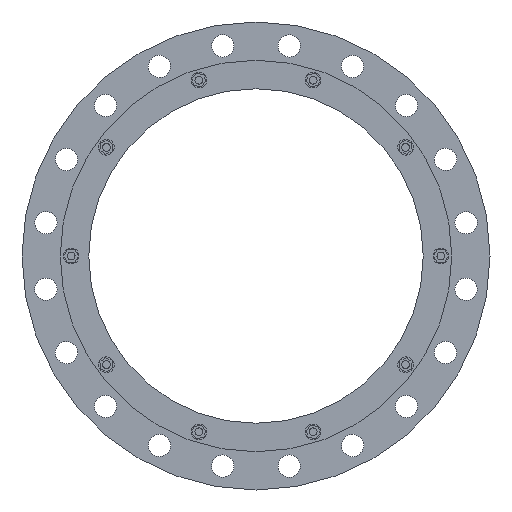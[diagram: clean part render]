
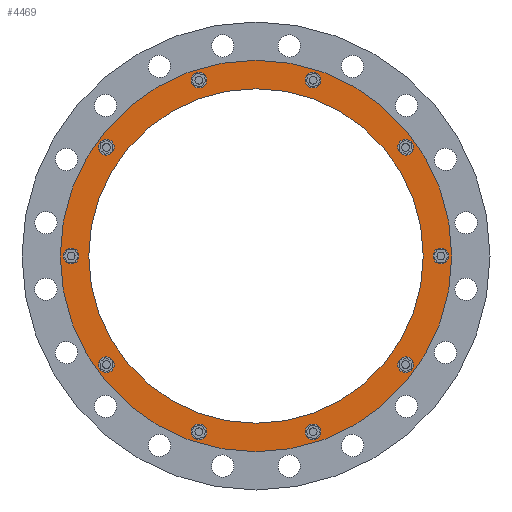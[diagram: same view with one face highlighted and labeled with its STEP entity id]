
A CAD part, front view. The second image highlights one B-rep face of the part: STEP entity #4469.
In plain terms, the highlighted planar face has unit normal (0, -1, 0).
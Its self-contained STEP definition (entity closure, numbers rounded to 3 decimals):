
#1100=CARTESIAN_POINT('',(0.,-94.452,0.));
#1101=DIRECTION('',(0.,-1.,0.));
#1102=DIRECTION('',(1.,0.,0.));
#1103=AXIS2_PLACEMENT_3D('',#1100,#1101,#1102);
#1105=CARTESIAN_POINT('',(0.,-94.452,0.));
#1106=DIRECTION('',(0.,1.,0.));
#1107=DIRECTION('',(1.,0.,0.));
#1108=AXIS2_PLACEMENT_3D('',#1105,#1106,#1107);
#1110=CARTESIAN_POINT('',(282.5,-94.452,0.));
#1111=DIRECTION('',(0.,-1.,0.));
#1112=DIRECTION('',(0.,0.,-1.));
#1113=AXIS2_PLACEMENT_3D('',#1110,#1111,#1112);
#1115=CARTESIAN_POINT('',(282.5,-94.452,0.));
#1116=DIRECTION('',(0.,-1.,0.));
#1117=DIRECTION('',(0.,0.,1.));
#1118=AXIS2_PLACEMENT_3D('',#1115,#1116,#1117);
#1120=CARTESIAN_POINT('',(228.547,-94.452,166.049));
#1121=DIRECTION('',(0.,-1.,0.));
#1122=DIRECTION('',(0.588,0.,-0.809));
#1123=AXIS2_PLACEMENT_3D('',#1120,#1121,#1122);
#1125=CARTESIAN_POINT('',(228.547,-94.452,166.049));
#1126=DIRECTION('',(0.,-1.,0.));
#1127=DIRECTION('',(-0.588,0.,0.809));
#1128=AXIS2_PLACEMENT_3D('',#1125,#1126,#1127);
#1130=CARTESIAN_POINT('',(87.297,-94.452,268.673));
#1131=DIRECTION('',(0.,-1.,0.));
#1132=DIRECTION('',(0.951,0.,-0.309));
#1133=AXIS2_PLACEMENT_3D('',#1130,#1131,#1132);
#1135=CARTESIAN_POINT('',(87.297,-94.452,268.673));
#1136=DIRECTION('',(0.,-1.,0.));
#1137=DIRECTION('',(-0.951,0.,0.309));
#1138=AXIS2_PLACEMENT_3D('',#1135,#1136,#1137);
#1140=CARTESIAN_POINT('',(-87.297,-94.452,268.673));
#1141=DIRECTION('',(0.,-1.,0.));
#1142=DIRECTION('',(0.951,0.,0.309));
#1143=AXIS2_PLACEMENT_3D('',#1140,#1141,#1142);
#1145=CARTESIAN_POINT('',(-87.297,-94.452,268.673));
#1146=DIRECTION('',(0.,-1.,0.));
#1147=DIRECTION('',(-0.951,0.,-0.309));
#1148=AXIS2_PLACEMENT_3D('',#1145,#1146,#1147);
#1150=CARTESIAN_POINT('',(-228.547,-94.452,166.049));
#1151=DIRECTION('',(0.,-1.,0.));
#1152=DIRECTION('',(0.588,0.,0.809));
#1153=AXIS2_PLACEMENT_3D('',#1150,#1151,#1152);
#1155=CARTESIAN_POINT('',(-228.547,-94.452,166.049));
#1156=DIRECTION('',(0.,-1.,0.));
#1157=DIRECTION('',(-0.588,0.,-0.809));
#1158=AXIS2_PLACEMENT_3D('',#1155,#1156,#1157);
#1160=CARTESIAN_POINT('',(-282.5,-94.452,0.));
#1161=DIRECTION('',(0.,-1.,0.));
#1162=DIRECTION('',(0.,0.,1.));
#1163=AXIS2_PLACEMENT_3D('',#1160,#1161,#1162);
#1165=CARTESIAN_POINT('',(-282.5,-94.452,0.));
#1166=DIRECTION('',(0.,-1.,0.));
#1167=DIRECTION('',(0.,0.,-1.));
#1168=AXIS2_PLACEMENT_3D('',#1165,#1166,#1167);
#1170=CARTESIAN_POINT('',(-228.547,-94.452,-166.049));
#1171=DIRECTION('',(0.,-1.,0.));
#1172=DIRECTION('',(-0.588,0.,0.809));
#1173=AXIS2_PLACEMENT_3D('',#1170,#1171,#1172);
#1175=CARTESIAN_POINT('',(-228.547,-94.452,-166.049));
#1176=DIRECTION('',(0.,-1.,0.));
#1177=DIRECTION('',(0.588,0.,-0.809));
#1178=AXIS2_PLACEMENT_3D('',#1175,#1176,#1177);
#1180=CARTESIAN_POINT('',(-87.297,-94.452,-268.673));
#1181=DIRECTION('',(0.,-1.,0.));
#1182=DIRECTION('',(-0.951,0.,0.309));
#1183=AXIS2_PLACEMENT_3D('',#1180,#1181,#1182);
#1185=CARTESIAN_POINT('',(-87.297,-94.452,-268.673));
#1186=DIRECTION('',(0.,-1.,0.));
#1187=DIRECTION('',(0.951,0.,-0.309));
#1188=AXIS2_PLACEMENT_3D('',#1185,#1186,#1187);
#1190=CARTESIAN_POINT('',(87.297,-94.452,-268.673));
#1191=DIRECTION('',(0.,-1.,0.));
#1192=DIRECTION('',(-0.951,0.,-0.309));
#1193=AXIS2_PLACEMENT_3D('',#1190,#1191,#1192);
#1195=CARTESIAN_POINT('',(87.297,-94.452,-268.673));
#1196=DIRECTION('',(0.,-1.,0.));
#1197=DIRECTION('',(0.951,0.,0.309));
#1198=AXIS2_PLACEMENT_3D('',#1195,#1196,#1197);
#1200=CARTESIAN_POINT('',(228.547,-94.452,-166.049));
#1201=DIRECTION('',(0.,-1.,0.));
#1202=DIRECTION('',(-0.588,0.,-0.809));
#1203=AXIS2_PLACEMENT_3D('',#1200,#1201,#1202);
#1205=CARTESIAN_POINT('',(228.547,-94.452,-166.049));
#1206=DIRECTION('',(0.,-1.,0.));
#1207=DIRECTION('',(0.588,0.,0.809));
#1208=AXIS2_PLACEMENT_3D('',#1205,#1206,#1207);
#1210=CARTESIAN_POINT('',(0.,-94.452,0.));
#1211=DIRECTION('',(0.,1.,0.));
#1212=DIRECTION('',(1.,0.,0.));
#1213=AXIS2_PLACEMENT_3D('',#1210,#1211,#1212);
#1223=CARTESIAN_POINT('',(0.,-94.452,0.));
#1224=DIRECTION('',(0.,-1.,0.));
#1225=DIRECTION('',(1.,0.,0.));
#1226=AXIS2_PLACEMENT_3D('',#1223,#1224,#1225);
#2967=CARTESIAN_POINT('',(299.1,-94.452,0.));
#2969=VERTEX_POINT('',#2967);
#2970=CARTESIAN_POINT('',(255.5,-94.452,0.));
#2972=VERTEX_POINT('',#2970);
#2979=CARTESIAN_POINT('',(-299.1,-94.452,0.));
#2981=VERTEX_POINT('',#2979);
#2982=CARTESIAN_POINT('',(-255.5,-94.452,0.));
#2984=VERTEX_POINT('',#2982);
#3021=CARTESIAN_POINT('',(282.5,-94.452,-12.));
#3022=CARTESIAN_POINT('',(282.5,-94.452,12.));
#3023=VERTEX_POINT('',#3021);
#3024=VERTEX_POINT('',#3022);
#3070=CARTESIAN_POINT('',(235.601,-94.452,156.341));
#3071=VERTEX_POINT('',#3070);
#3072=CARTESIAN_POINT('',(221.494,-94.452,175.758));
#3073=VERTEX_POINT('',#3072);
#3114=CARTESIAN_POINT('',(98.71,-94.452,264.965));
#3115=VERTEX_POINT('',#3114);
#3116=CARTESIAN_POINT('',(75.885,-94.452,272.382));
#3117=VERTEX_POINT('',#3116);
#3158=CARTESIAN_POINT('',(-75.885,-94.452,272.382));
#3159=VERTEX_POINT('',#3158);
#3160=CARTESIAN_POINT('',(-98.71,-94.452,264.965));
#3161=VERTEX_POINT('',#3160);
#3202=CARTESIAN_POINT('',(-221.494,-94.452,175.758));
#3203=VERTEX_POINT('',#3202);
#3204=CARTESIAN_POINT('',(-235.601,-94.452,156.341));
#3205=VERTEX_POINT('',#3204);
#3246=CARTESIAN_POINT('',(-282.5,-94.452,12.));
#3247=VERTEX_POINT('',#3246);
#3248=CARTESIAN_POINT('',(-282.5,-94.452,-12.));
#3249=VERTEX_POINT('',#3248);
#3290=CARTESIAN_POINT('',(-235.601,-94.452,-156.341));
#3291=VERTEX_POINT('',#3290);
#3292=CARTESIAN_POINT('',(-221.494,-94.452,-175.758));
#3293=VERTEX_POINT('',#3292);
#3334=CARTESIAN_POINT('',(-98.71,-94.452,-264.965));
#3335=VERTEX_POINT('',#3334);
#3336=CARTESIAN_POINT('',(-75.885,-94.452,-272.382));
#3337=VERTEX_POINT('',#3336);
#3549=CARTESIAN_POINT('',(75.885,-94.452,-272.382));
#3550=VERTEX_POINT('',#3549);
#3551=CARTESIAN_POINT('',(98.71,-94.452,-264.965));
#3552=VERTEX_POINT('',#3551);
#3593=CARTESIAN_POINT('',(221.494,-94.452,-175.758));
#3594=VERTEX_POINT('',#3593);
#3595=CARTESIAN_POINT('',(235.601,-94.452,-156.341));
#3596=VERTEX_POINT('',#3595);
#4394=CARTESIAN_POINT('',(0.,-94.452,0.));
#4395=DIRECTION('',(0.,1.,0.));
#4396=DIRECTION('',(-1.,0.,0.));
#4397=AXIS2_PLACEMENT_3D('',#4394,#4395,#4396);
#4398=PLANE('',#4397);
#4400=ORIENTED_EDGE('',*,*,#4399,.F.);
#4402=ORIENTED_EDGE('',*,*,#4401,.T.);
#4403=EDGE_LOOP('',(#4400,#4402));
#4404=FACE_OUTER_BOUND('',#4403,.F.);
#4406=ORIENTED_EDGE('',*,*,#4405,.F.);
#4408=ORIENTED_EDGE('',*,*,#4407,.T.);
#4409=EDGE_LOOP('',(#4406,#4408));
#4410=FACE_BOUND('',#4409,.F.);
#4412=ORIENTED_EDGE('',*,*,#4411,.T.);
#4414=ORIENTED_EDGE('',*,*,#4413,.T.);
#4415=EDGE_LOOP('',(#4412,#4414));
#4416=FACE_BOUND('',#4415,.F.);
#4418=ORIENTED_EDGE('',*,*,#4417,.T.);
#4420=ORIENTED_EDGE('',*,*,#4419,.T.);
#4421=EDGE_LOOP('',(#4418,#4420));
#4422=FACE_BOUND('',#4421,.F.);
#4424=ORIENTED_EDGE('',*,*,#4423,.T.);
#4426=ORIENTED_EDGE('',*,*,#4425,.T.);
#4427=EDGE_LOOP('',(#4424,#4426));
#4428=FACE_BOUND('',#4427,.F.);
#4430=ORIENTED_EDGE('',*,*,#4429,.T.);
#4432=ORIENTED_EDGE('',*,*,#4431,.T.);
#4433=EDGE_LOOP('',(#4430,#4432));
#4434=FACE_BOUND('',#4433,.F.);
#4436=ORIENTED_EDGE('',*,*,#4435,.T.);
#4438=ORIENTED_EDGE('',*,*,#4437,.T.);
#4439=EDGE_LOOP('',(#4436,#4438));
#4440=FACE_BOUND('',#4439,.F.);
#4442=ORIENTED_EDGE('',*,*,#4441,.T.);
#4444=ORIENTED_EDGE('',*,*,#4443,.T.);
#4445=EDGE_LOOP('',(#4442,#4444));
#4446=FACE_BOUND('',#4445,.F.);
#4448=ORIENTED_EDGE('',*,*,#4447,.T.);
#4450=ORIENTED_EDGE('',*,*,#4449,.T.);
#4451=EDGE_LOOP('',(#4448,#4450));
#4452=FACE_BOUND('',#4451,.F.);
#4454=ORIENTED_EDGE('',*,*,#4453,.T.);
#4456=ORIENTED_EDGE('',*,*,#4455,.T.);
#4457=EDGE_LOOP('',(#4454,#4456));
#4458=FACE_BOUND('',#4457,.F.);
#4459=ORIENTED_EDGE('',*,*,#4376,.T.);
#4460=ORIENTED_EDGE('',*,*,#4387,.T.);
#4461=EDGE_LOOP('',(#4459,#4460));
#4462=FACE_BOUND('',#4461,.F.);
#4464=ORIENTED_EDGE('',*,*,#4463,.T.);
#4466=ORIENTED_EDGE('',*,*,#4465,.T.);
#4467=EDGE_LOOP('',(#4464,#4466));
#4468=FACE_BOUND('',#4467,.F.);
#4469=ADVANCED_FACE('',(#4404,#4410,#4416,#4422,#4428,#4434,#4440,#4446,#4452,
#4458,#4462,#4468),#4398,.F.);
#1104=CIRCLE('',#1103,299.1);
#1109=CIRCLE('',#1108,299.1);
#1114=CIRCLE('',#1113,12.);
#1119=CIRCLE('',#1118,12.);
#1124=CIRCLE('',#1123,12.);
#1129=CIRCLE('',#1128,12.);
#1134=CIRCLE('',#1133,12.);
#1139=CIRCLE('',#1138,12.);
#1144=CIRCLE('',#1143,12.);
#1149=CIRCLE('',#1148,12.);
#1154=CIRCLE('',#1153,12.);
#1159=CIRCLE('',#1158,12.);
#1164=CIRCLE('',#1163,12.);
#1169=CIRCLE('',#1168,12.);
#1174=CIRCLE('',#1173,12.);
#1179=CIRCLE('',#1178,12.);
#1184=CIRCLE('',#1183,12.);
#1189=CIRCLE('',#1188,12.);
#1194=CIRCLE('',#1193,12.);
#1199=CIRCLE('',#1198,12.);
#1204=CIRCLE('',#1203,12.);
#1209=CIRCLE('',#1208,12.);
#1214=CIRCLE('',#1213,255.5);
#1227=CIRCLE('',#1226,255.5);
#4376=EDGE_CURVE('',#3550,#3552,#1194,.T.);
#4387=EDGE_CURVE('',#3552,#3550,#1199,.T.);
#4399=EDGE_CURVE('',#2969,#2981,#1104,.T.);
#4401=EDGE_CURVE('',#2969,#2981,#1109,.T.);
#4405=EDGE_CURVE('',#2972,#2984,#1214,.T.);
#4407=EDGE_CURVE('',#2972,#2984,#1227,.T.);
#4411=EDGE_CURVE('',#3023,#3024,#1114,.T.);
#4413=EDGE_CURVE('',#3024,#3023,#1119,.T.);
#4417=EDGE_CURVE('',#3071,#3073,#1124,.T.);
#4419=EDGE_CURVE('',#3073,#3071,#1129,.T.);
#4423=EDGE_CURVE('',#3115,#3117,#1134,.T.);
#4425=EDGE_CURVE('',#3117,#3115,#1139,.T.);
#4429=EDGE_CURVE('',#3159,#3161,#1144,.T.);
#4431=EDGE_CURVE('',#3161,#3159,#1149,.T.);
#4435=EDGE_CURVE('',#3203,#3205,#1154,.T.);
#4437=EDGE_CURVE('',#3205,#3203,#1159,.T.);
#4441=EDGE_CURVE('',#3247,#3249,#1164,.T.);
#4443=EDGE_CURVE('',#3249,#3247,#1169,.T.);
#4447=EDGE_CURVE('',#3291,#3293,#1174,.T.);
#4449=EDGE_CURVE('',#3293,#3291,#1179,.T.);
#4453=EDGE_CURVE('',#3335,#3337,#1184,.T.);
#4455=EDGE_CURVE('',#3337,#3335,#1189,.T.);
#4463=EDGE_CURVE('',#3594,#3596,#1204,.T.);
#4465=EDGE_CURVE('',#3596,#3594,#1209,.T.);
